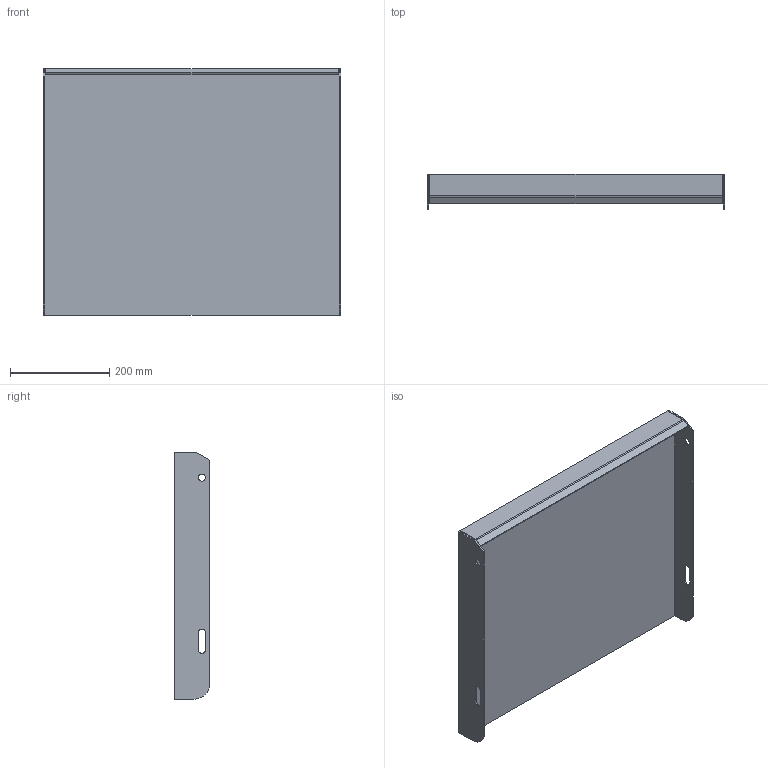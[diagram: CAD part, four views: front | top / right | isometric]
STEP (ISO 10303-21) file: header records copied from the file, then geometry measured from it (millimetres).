
FILE_DESCRIPTION (( 'STEP AP203' ), '1' );
FILE_NAME ('148806051, Plan TH6, 600x500, vfz.STEP', '2020-10-21T13:29:35', ( '' ), ( '' ), 'SwSTEP 2.0', 'SolidWorks 2019', '' );
FILE_SCHEMA (( 'CONFIG_CONTROL_DESIGN' ));
Length unit declared in the file: millimetre
Products named in the file (4): 148806051, Plan TH6, 600x500, vfz; SW0000041826; SW0000041378; SW0000041477
Assembly tree (4 placements, depth 2):
  148806051, Plan TH6, 600x500, vfz
    SW0000041826
    SW0000041378  x2
    SW0000041477
Bounding box: 600 x 70 x 497 mm (x, y, z)
Volume: 6175133.4 mm3; surface area: 847939.9 mm2
Topology: 4 solids, 4 shells, 59 faces, 142 edges, 92 vertices
Faces by surface type: plane 45, cylinder 14
Entity records: 1693 total; most frequent: DIRECTION 221, CARTESIAN_POINT 220, ORIENTED_EDGE 206, EDGE_CURVE 103, LINE 87, VECTOR 87, AXIS2_PLACEMENT_3D 67, VERTEX_POINT 66
